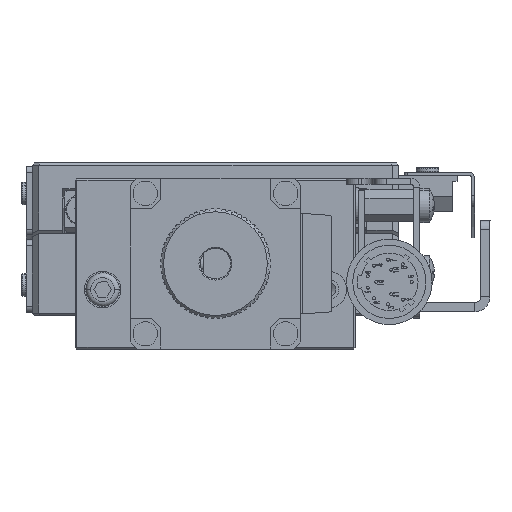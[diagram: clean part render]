
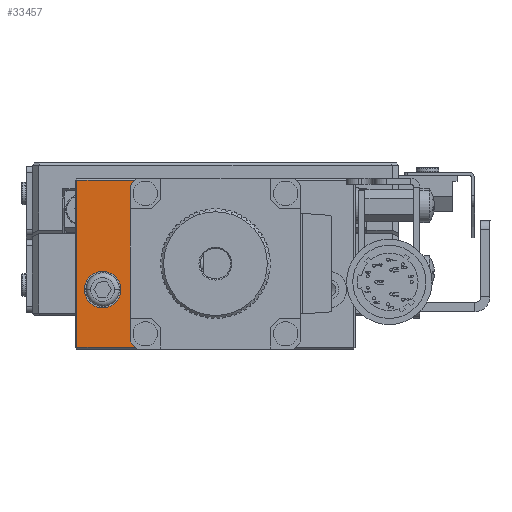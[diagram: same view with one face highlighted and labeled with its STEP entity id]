
A CAD part, left-side view. The second image highlights one B-rep face of the part: STEP entity #33457.
In plain terms, the highlighted planar face has unit normal (-1, 0, 0).
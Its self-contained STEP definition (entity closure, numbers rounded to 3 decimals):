
#3665 = EDGE_CURVE ( 'NONE', #111672, #4290, #88968, .T. ) ;
#4290 = VERTEX_POINT ( 'NONE', #101290 ) ;
#6273 = DIRECTION ( 'NONE',  ( 0., -1., 0. ) ) ;
#7654 = VECTOR ( 'NONE', #29240, 1000. ) ;
#13613 = CARTESIAN_POINT ( 'NONE',  ( -63., 59.2, -28.7 ) ) ;
#14149 = CARTESIAN_POINT ( 'NONE',  ( -63., 36.5, -15. ) ) ;
#15235 = EDGE_CURVE ( 'NONE', #23290, #70099, #98947, .T. ) ;
#16492 = FACE_OUTER_BOUND ( 'NONE', #64265, .T. ) ;
#16496 = AXIS2_PLACEMENT_3D ( 'NONE', #95957, #141507, #6273 ) ;
#21336 = EDGE_CURVE ( 'NONE', #23217, #144595, #45470, .T. ) ;
#22567 = LINE ( 'NONE', #23301, #58033 ) ;
#23081 = CARTESIAN_POINT ( 'NONE',  ( -63., 36.5, -28.7 ) ) ;
#23217 = VERTEX_POINT ( 'NONE', #13613 ) ;
#23290 = VERTEX_POINT ( 'NONE', #92828 ) ;
#23301 = CARTESIAN_POINT ( 'NONE',  ( -63., 50.5, -27.845 ) ) ;
#28313 = AXIS2_PLACEMENT_3D ( 'NONE', #143539, #98705, #121849 ) ;
#29240 = DIRECTION ( 'NONE',  ( 0., 0., -1. ) ) ;
#33457 = ADVANCED_FACE ( 'NONE', ( #16492, #62038 ), #108408, .F. ) ;
#35456 = CIRCLE ( 'NONE', #28313, 19. ) ;
#43338 = CARTESIAN_POINT ( 'NONE',  ( -63., 36.5, -1.3 ) ) ;
#45470 = LINE ( 'NONE', #23081, #115968 ) ;
#45957 = VERTEX_POINT ( 'NONE', #124512 ) ;
#50823 = CARTESIAN_POINT ( 'NONE',  ( -63., 36.5, -15. ) ) ;
#53769 = CARTESIAN_POINT ( 'NONE',  ( -63., 49.665, -28.7 ) ) ;
#54058 = AXIS2_PLACEMENT_3D ( 'NONE', #50823, #96456, #142008 ) ;
#54787 = EDGE_CURVE ( 'NONE', #45957, #109870, #22567, .T. ) ;
#58033 = VECTOR ( 'NONE', #68855, 1000. ) ;
#58153 = DIRECTION ( 'NONE',  ( 0., -1., 0. ) ) ;
#61405 = LINE ( 'NONE', #83872, #7654 ) ;
#62038 = FACE_BOUND ( 'NONE', #78149, .T. ) ;
#62276 = EDGE_CURVE ( 'NONE', #144595, #45957, #125977, .T. ) ;
#63354 = DIRECTION ( 'NONE',  ( 0., 0., -1. ) ) ;
#64265 = EDGE_LOOP ( 'NONE', ( #87605, #71354, #136048, #90438, #78369, #85532 ) ) ;
#68855 = DIRECTION ( 'NONE',  ( 0., 0., 1. ) ) ;
#70099 = VERTEX_POINT ( 'NONE', #136314 ) ;
#71354 = ORIENTED_EDGE ( 'NONE', *, *, #73322, .T. ) ;
#73322 = EDGE_CURVE ( 'NONE', #109870, #111672, #35456, .T. ) ;
#73649 = DIRECTION ( 'NONE',  ( 0., -1., 0. ) ) ;
#73952 = EDGE_CURVE ( 'NONE', #70099, #23290, #121454, .T. ) ;
#78149 = EDGE_LOOP ( 'NONE', ( #102310, #108923 ) ) ;
#78369 = ORIENTED_EDGE ( 'NONE', *, *, #21336, .T. ) ;
#83872 = CARTESIAN_POINT ( 'NONE',  ( -63., 59.2, -15. ) ) ;
#84883 = CARTESIAN_POINT ( 'NONE',  ( -63., 55., -19.25 ) ) ;
#85532 = ORIENTED_EDGE ( 'NONE', *, *, #62276, .T. ) ;
#85605 = CARTESIAN_POINT ( 'NONE',  ( -63., 49.665, -1.3 ) ) ;
#87605 = ORIENTED_EDGE ( 'NONE', *, *, #54787, .T. ) ;
#88968 = LINE ( 'NONE', #43338, #134521 ) ;
#89495 = DIRECTION ( 'NONE',  ( 1., 0., 0. ) ) ;
#90438 = ORIENTED_EDGE ( 'NONE', *, *, #125659, .T. ) ;
#92828 = CARTESIAN_POINT ( 'NONE',  ( -63., 58., -19.25 ) ) ;
#95661 = CARTESIAN_POINT ( 'NONE',  ( -63., 50.5, -2.155 ) ) ;
#95957 = CARTESIAN_POINT ( 'NONE',  ( -63., 55., -19.25 ) ) ;
#96456 = DIRECTION ( 'NONE',  ( 1., 0., 0. ) ) ;
#96605 = AXIS2_PLACEMENT_3D ( 'NONE', #84883, #132654, #73649 ) ;
#98705 = DIRECTION ( 'NONE',  ( 1., 0., 0. ) ) ;
#98947 = CIRCLE ( 'NONE', #96605, 3. ) ;
#101290 = CARTESIAN_POINT ( 'NONE',  ( -63., 59.2, -1.3 ) ) ;
#102108 = AXIS2_PLACEMENT_3D ( 'NONE', #14149, #89495, #63354 ) ;
#102310 = ORIENTED_EDGE ( 'NONE', *, *, #73952, .F. ) ;
#108408 = PLANE ( 'NONE',  #54058 ) ;
#108923 = ORIENTED_EDGE ( 'NONE', *, *, #15235, .F. ) ;
#109870 = VERTEX_POINT ( 'NONE', #95661 ) ;
#111672 = VERTEX_POINT ( 'NONE', #85605 ) ;
#115968 = VECTOR ( 'NONE', #58153, 1000. ) ;
#121454 = CIRCLE ( 'NONE', #16496, 3. ) ;
#121849 = DIRECTION ( 'NONE',  ( 0., 0., -1. ) ) ;
#124512 = CARTESIAN_POINT ( 'NONE',  ( -63., 50.5, -27.845 ) ) ;
#125659 = EDGE_CURVE ( 'NONE', #4290, #23217, #61405, .T. ) ;
#125977 = CIRCLE ( 'NONE', #102108, 19. ) ;
#132654 = DIRECTION ( 'NONE',  ( -1., 0., 0. ) ) ;
#134521 = VECTOR ( 'NONE', #136028, 1000. ) ;
#136028 = DIRECTION ( 'NONE',  ( 0., 1., 0. ) ) ;
#136048 = ORIENTED_EDGE ( 'NONE', *, *, #3665, .T. ) ;
#136314 = CARTESIAN_POINT ( 'NONE',  ( -63., 52., -19.25 ) ) ;
#141507 = DIRECTION ( 'NONE',  ( -1., 0., 0. ) ) ;
#142008 = DIRECTION ( 'NONE',  ( 0., 1., 0. ) ) ;
#143539 = CARTESIAN_POINT ( 'NONE',  ( -63., 36.5, -15. ) ) ;
#144595 = VERTEX_POINT ( 'NONE', #53769 ) ;
